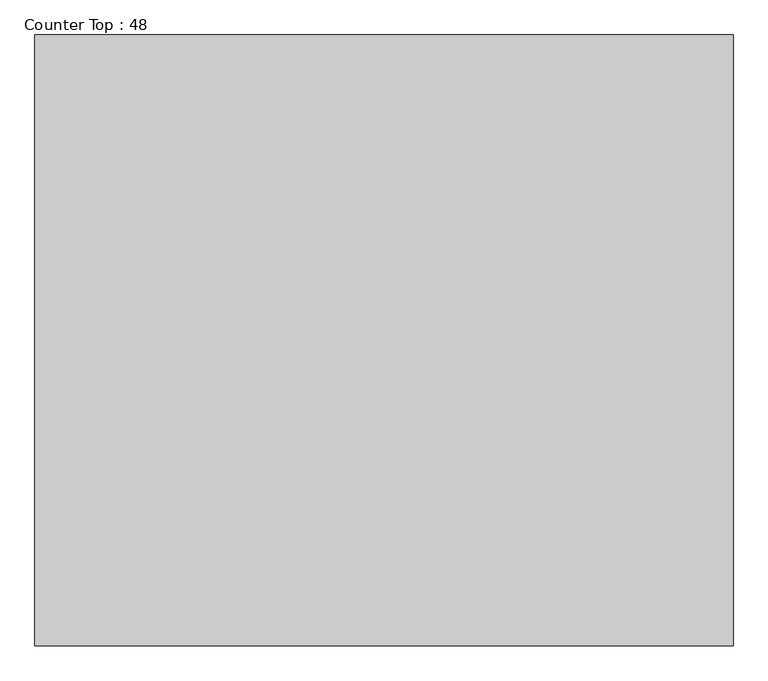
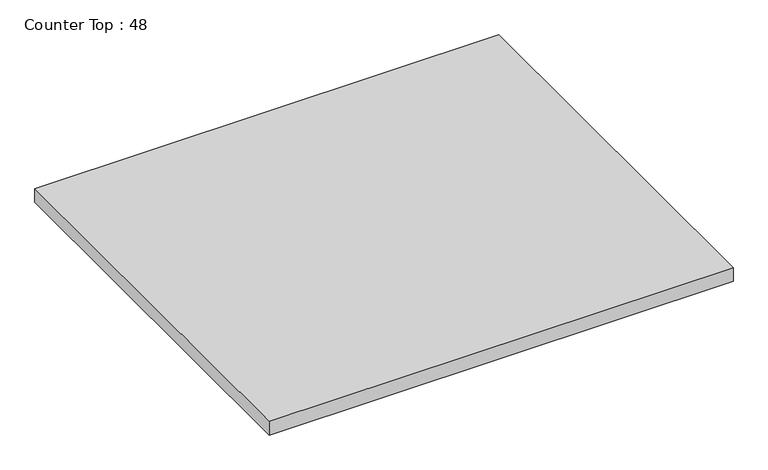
"""IFC4 building model written with IfcOpenShell, lengths in millimetres: furniture geometry, Counter Top : 48."""

from ifc_helpers import new_model, si_unit, frame, origin, place, context, project, spatial, polyline, outline, extrude, source, transform, mapped, element, save


def counter_top_48_cfc3eecd(model_context):
    return source(origin(), model_context, "Body", "SweptSolid", [
        extrude(outline(polyline([(18.7377049, 0.0), (18.7377049, -1066.8), (-1200.4622951, -1066.8), (-1200.4622951, 0.0), (18.7377049, 0.0)])), frame((0.0, 0.0, 876.3), z_axis=(0.0, 0.0, 1.0), x_axis=(1.0, 0.0, 0.0)), (0.0, 0.0, 1.0), 38.1),
    ])


if __name__ == "__main__":
    model = new_model("IFC4")
    model_context = context("Model", 3, world=origin())
    ifc_project = project(units=[si_unit("LENGTHUNIT", "METRE", prefix="MILLI")], contexts=[model_context])
    site = spatial("IfcSite", under=ifc_project)
    building = spatial("IfcBuilding", under=site)
    placement = place(None, origin())
    counter_top_48_shape = counter_top_48_cfc3eecd(model_context)
    element("IfcFurniture", 1, ObjectType="Counter Top : 48", at=placement, inside=building, context=model_context, shape_type="MappedRepresentation", body=[
        mapped(counter_top_48_shape, transform((0.0, 0.0, 0.0), x_axis=(1.0, 0.0, 0.0), y_axis=(0.0, 1.0, 0.0), z_axis=(0.0, 0.0, 1.0))),
    ])
    save(model, "model.ifc")
